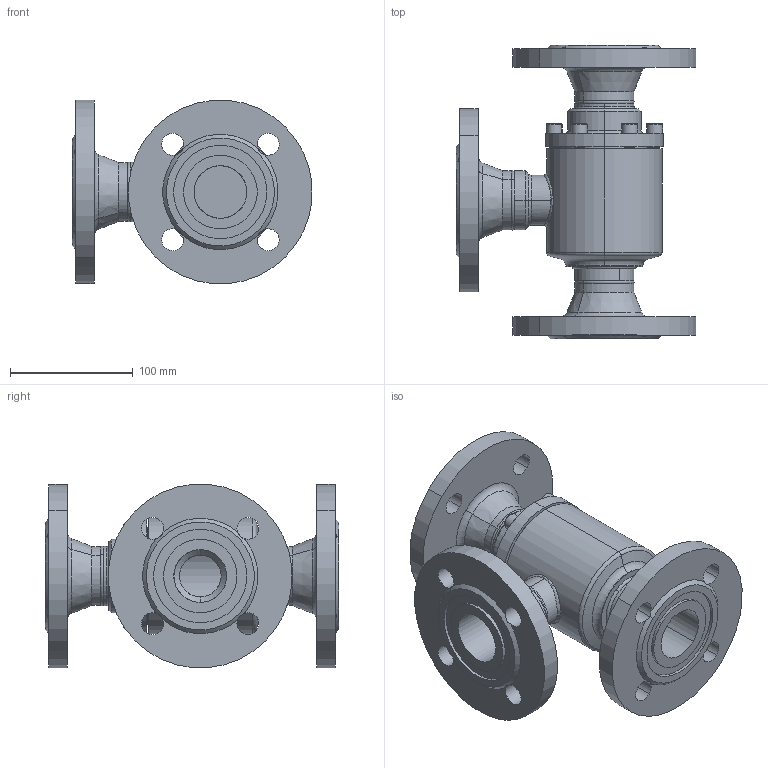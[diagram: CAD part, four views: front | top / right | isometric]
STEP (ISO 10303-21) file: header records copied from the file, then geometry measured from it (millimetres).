
FILE_DESCRIPTION (( 'STEP AP214' ), '1' );
FILE_NAME ('TR47020C14-DN40_DIN_PS40.STEP', '2005-08-10T11:31:04', ( 'Herr Grams' ), ( 'AWP GmbH' ), 'SwSTEP 2.0', 'SolidWorks 2002296', '' );
FILE_SCHEMA (( 'AUTOMOTIVE_DESIGN' ));
Length unit declared in the file: millimetre
Products named in the file (15): TR47020C14-DN40_DIN_PS40; Flansch-DIN-Nut_PS40_DIN-Flansch-DN040_PS40-Nut; TR47000C14-DN40_R1_PS40_Standard; Führungsring47050-11-DN15-40_Standard; Deckel47000E14_DN40_PS40_R1_Standard; Geh-kpl47000E14-DN40_PS40_R1_Standard; Kehlnaht13-2_Standard; RohrstutzA47000E14-DN40_PS40_R1_Standard; Geh47000E14_DN32-40_PS40_R1_Standard; Stutzenteil47000E14_DN40_PS40_R1_Standard; bead14-3_Standard; Zylinderschraube-DIN912-M 8x22_M 8x 22; TR40-1_Standard; TR40-3_Standard; TR40-2_Standard
Assembly tree (21 placements, depth 4):
  TR47020C14-DN40_DIN_PS40
    Flansch-DIN-Nut_PS40_DIN-Flansch-DN040_PS40-Nut  x3
    TR40-3_Standard
    TR47000C14-DN40_R1_PS40_Standard
      Führungsring47050-11-DN15-40_Standard
      Deckel47000E14_DN40_PS40_R1_Standard
      Geh-kpl47000E14-DN40_PS40_R1_Standard
        Kehlnaht13-2_Standard
        RohrstutzA47000E14-DN40_PS40_R1_Standard
        Geh47000E14_DN32-40_PS40_R1_Standard
        Stutzenteil47000E14_DN40_PS40_R1_Standard
        bead14-3_Standard
      Zylinderschraube-DIN912-M 8x22_M 8x 22  x6
    TR40-1_Standard
    TR40-2_Standard
Bounding box: 195.71 x 239.5 x 149.43 mm (x, y, z)
Volume: 1253284.6 mm3; surface area: 286799.8 mm2
Topology: 19 solids, 19 shells, 576 faces, 1484 edges, 962 vertices
Faces by surface type: cylinder 352, plane 110, cone 56, torus 32, bspline 26
Entity records: 26269 total; most frequent: CARTESIAN_POINT 19563, ORIENTED_EDGE 1196, DIRECTION 1162, EDGE_CURVE 598, AXIS2_PLACEMENT_3D 486, VERTEX_POINT 382, EDGE_LOOP 306, FACE_OUTER_BOUND 246
